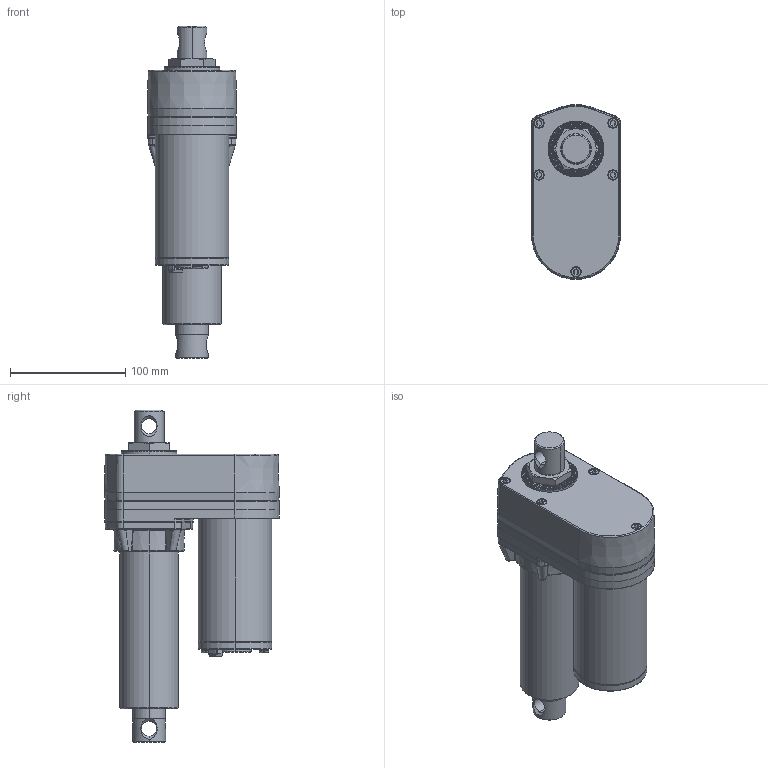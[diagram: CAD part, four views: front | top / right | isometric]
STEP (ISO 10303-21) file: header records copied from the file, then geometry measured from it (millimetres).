
FILE_DESCRIPTION((''),' ');
FILE_NAME('dszy2_std_102.stp',' ',('R. Lindner'),('MSW GmbH'),' ','ACIS 14.0',' ');
FILE_SCHEMA(('automotive_design'));
Length unit declared in the file: inch
Products named in the file (2): DSZY2-STD-102|NAUO1#-1;Â°Â£Â®Ã†-Â¦Ã¹ÂªÃ¸11; DSZY2-STD-102|NAUO2#ID10II-A-Standard -102-2;Â°Â£Â®Ã†-Â±Ã›Ã‚Ã 4
Bounding box: 77.15 x 151.65 x 287.8 mm (x, y, z)
Volume: 1373479.9 mm3; surface area: 131490.3 mm2
Topology: 2 solids, 2 shells, 888 faces, 2318 edges, 1458 vertices
Faces by surface type: plane 517, cylinder 165, bspline 94, torus 58, cone 54
Entity records: 38611 total; most frequent: CARTESIAN_POINT 11858, ORIENTED_EDGE 4620, DIRECTION 3624, EDGE_CURVE 2310, VERTEX_POINT 1458, AXIS2_PLACEMENT_3D 1326, LINE 972, VECTOR 972
